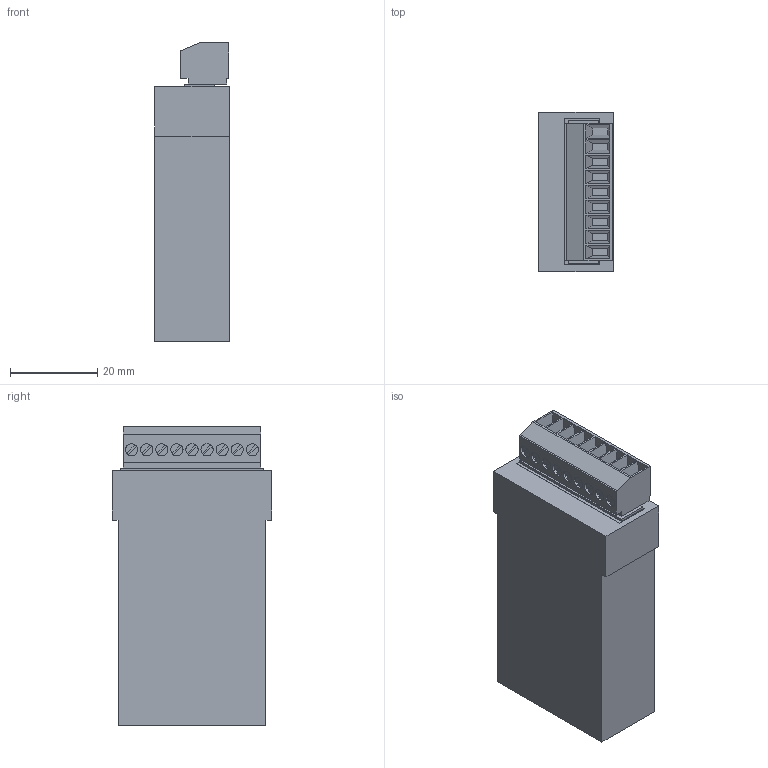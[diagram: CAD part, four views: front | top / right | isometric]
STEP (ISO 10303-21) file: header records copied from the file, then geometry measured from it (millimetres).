
FILE_DESCRIPTION (( 'STEP AP203' ), '1' );
FILE_NAME ('afp7fca21.STEP', '2013-11-29T05:21:19', ( 'sunx' ), ( 'sunx' ), 'SwSTEP 2.0', 'SolidWorks 2010', '' );
FILE_SCHEMA (( 'CONFIG_CONTROL_DESIGN' ));
Length unit declared in the file: millimetre
Products named in the file (3): afp7ccs1_mc_1.5-6-st-3.5_9PIN; afp7fca21; afp7ccs1_cassettecover_afp7ccs1
Assembly tree (2 placements, depth 2):
  afp7fca21
    afp7ccs1_cassettecover_afp7ccs1
    afp7ccs1_mc_1.5-6-st-3.5_9PIN
Bounding box: 17 x 36.4 x 68.25 mm (x, y, z)
Volume: 27114.4 mm3; surface area: 13358.9 mm2
Topology: 2 solids, 2 shells, 214 faces, 540 edges, 360 vertices
Faces by surface type: plane 196, cylinder 18
Entity records: 6661 total; most frequent: CARTESIAN_POINT 1119, ORIENTED_EDGE 1080, DIRECTION 1050, EDGE_CURVE 540, VECTOR 468, LINE 468, VERTEX_POINT 360, AXIS2_PLACEMENT_3D 291
